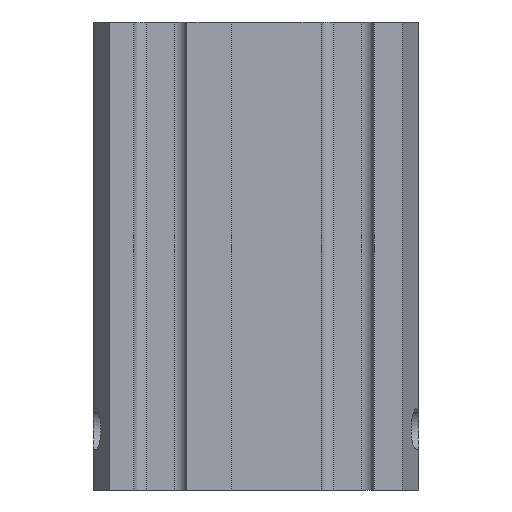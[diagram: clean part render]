
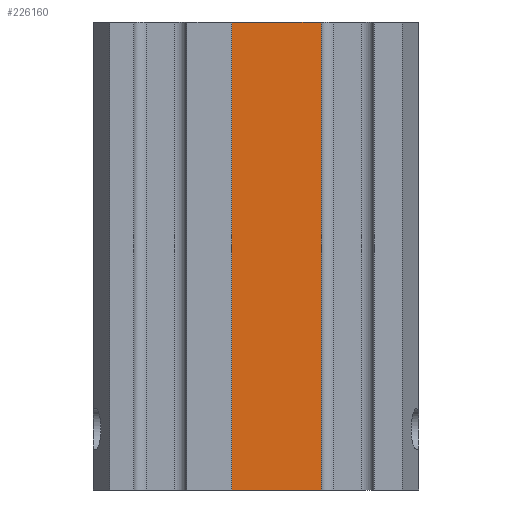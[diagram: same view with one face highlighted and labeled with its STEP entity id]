
A CAD part, left-side view. The second image highlights one B-rep face of the part: STEP entity #226160.
In plain terms, the highlighted planar face has unit normal (-1, 0, 0).
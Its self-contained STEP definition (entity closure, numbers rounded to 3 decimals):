
#222155 = PLANE('',#222156);
#222156 = AXIS2_PLACEMENT_3D('',#222157,#222158,#222159);
#222157 = CARTESIAN_POINT('',(-45.,16.,-6.73));
#222158 = DIRECTION('',(0.,-1.,0.));
#222159 = DIRECTION('',(1.,0.,0.));
#222167 = PLANE('',#222168);
#222168 = AXIS2_PLACEMENT_3D('',#222169,#222170,#222171);
#222169 = CARTESIAN_POINT('',(-45.,16.,-25.));
#222170 = DIRECTION('',(-0.,0.,1.));
#222171 = DIRECTION('',(0.95,-0.312,0.));
#222314 = VERTEX_POINT('',#222315);
#222315 = CARTESIAN_POINT('',(-45.,16.,90.));
#222329 = PLANE('',#222330);
#222330 = AXIS2_PLACEMENT_3D('',#222331,#222332,#222333);
#222331 = CARTESIAN_POINT('',(-45.,16.,90.));
#222332 = DIRECTION('',(-0.,0.,1.));
#222333 = DIRECTION('',(0.95,-0.312,0.));
#222341 = EDGE_CURVE('',#222342,#222314,#222344,.T.);
#222342 = VERTEX_POINT('',#222343);
#222343 = CARTESIAN_POINT('',(-45.,16.,-25.));
#222344 = SURFACE_CURVE('',#222345,(#222349,#222356),.PCURVE_S1.);
#222345 = LINE('',#222346,#222347);
#222346 = CARTESIAN_POINT('',(-45.,16.,-25.));
#222347 = VECTOR('',#222348,1.);
#222348 = DIRECTION('',(0.,0.,1.));
#222349 = PCURVE('',#222155,#222350);
#222350 = DEFINITIONAL_REPRESENTATION('',(#222351),#222355);
#222351 = LINE('',#222352,#222353);
#222352 = CARTESIAN_POINT('',(0.,-18.27));
#222353 = VECTOR('',#222354,1.);
#222354 = DIRECTION('',(0.,1.));
#222355 = ( GEOMETRIC_REPRESENTATION_CONTEXT(2) 
PARAMETRIC_REPRESENTATION_CONTEXT() REPRESENTATION_CONTEXT('2D SPACE',''
  ) );
#222356 = PCURVE('',#222357,#222362);
#222357 = PLANE('',#222358);
#222358 = AXIS2_PLACEMENT_3D('',#222359,#222360,#222361);
#222359 = CARTESIAN_POINT('',(-45.,-30.,-6.73));
#222360 = DIRECTION('',(1.,0.,0.));
#222361 = DIRECTION('',(-0.,1.,0.));
#222362 = DEFINITIONAL_REPRESENTATION('',(#222363),#222367);
#222363 = LINE('',#222364,#222365);
#222364 = CARTESIAN_POINT('',(46.,-18.27));
#222365 = VECTOR('',#222366,1.);
#222366 = DIRECTION('',(0.,1.));
#222367 = ( GEOMETRIC_REPRESENTATION_CONTEXT(2) 
PARAMETRIC_REPRESENTATION_CONTEXT() REPRESENTATION_CONTEXT('2D SPACE',''
  ) );
#223877 = EDGE_CURVE('',#223878,#222342,#223880,.T.);
#223878 = VERTEX_POINT('',#223879);
#223879 = CARTESIAN_POINT('',(-45.,-6.,-25.));
#223880 = SURFACE_CURVE('',#223881,(#223885,#223892),.PCURVE_S1.);
#223881 = LINE('',#223882,#223883);
#223882 = CARTESIAN_POINT('',(-45.,-30.,-25.));
#223883 = VECTOR('',#223884,1.);
#223884 = DIRECTION('',(0.,1.,0.));
#223885 = PCURVE('',#222167,#223886);
#223886 = DEFINITIONAL_REPRESENTATION('',(#223887),#223891);
#223887 = LINE('',#223888,#223889);
#223888 = CARTESIAN_POINT('',(14.359,-43.701));
#223889 = VECTOR('',#223890,1.);
#223890 = DIRECTION('',(-0.312,0.95));
#223891 = ( GEOMETRIC_REPRESENTATION_CONTEXT(2) 
PARAMETRIC_REPRESENTATION_CONTEXT() REPRESENTATION_CONTEXT('2D SPACE',''
  ) );
#223892 = PCURVE('',#222357,#223893);
#223893 = DEFINITIONAL_REPRESENTATION('',(#223894),#223898);
#223894 = LINE('',#223895,#223896);
#223895 = CARTESIAN_POINT('',(0.,-18.27));
#223896 = VECTOR('',#223897,1.);
#223897 = DIRECTION('',(1.,0.));
#223898 = ( GEOMETRIC_REPRESENTATION_CONTEXT(2) 
PARAMETRIC_REPRESENTATION_CONTEXT() REPRESENTATION_CONTEXT('2D SPACE',''
  ) );
#223921 = CYLINDRICAL_SURFACE('',#223922,3.);
#223922 = AXIS2_PLACEMENT_3D('',#223923,#223924,#223925);
#223923 = CARTESIAN_POINT('',(-45.,-9.,-26.));
#223924 = DIRECTION('',(-0.,-0.,-1.));
#223925 = DIRECTION('',(1.,0.,0.));
#226160 = ADVANCED_FACE('',(#226161),#222357,.F.);
#226161 = FACE_BOUND('',#226162,.F.);
#226162 = EDGE_LOOP('',(#226163,#226186,#226187,#226188));
#226163 = ORIENTED_EDGE('',*,*,#226164,.F.);
#226164 = EDGE_CURVE('',#223878,#226165,#226167,.T.);
#226165 = VERTEX_POINT('',#226166);
#226166 = CARTESIAN_POINT('',(-45.,-6.,90.));
#226167 = SURFACE_CURVE('',#226168,(#226172,#226179),.PCURVE_S1.);
#226168 = LINE('',#226169,#226170);
#226169 = CARTESIAN_POINT('',(-45.,-6.,-26.));
#226170 = VECTOR('',#226171,1.);
#226171 = DIRECTION('',(0.,0.,1.));
#226172 = PCURVE('',#222357,#226173);
#226173 = DEFINITIONAL_REPRESENTATION('',(#226174),#226178);
#226174 = LINE('',#226175,#226176);
#226175 = CARTESIAN_POINT('',(24.,-19.27));
#226176 = VECTOR('',#226177,1.);
#226177 = DIRECTION('',(0.,1.));
#226178 = ( GEOMETRIC_REPRESENTATION_CONTEXT(2) 
PARAMETRIC_REPRESENTATION_CONTEXT() REPRESENTATION_CONTEXT('2D SPACE',''
  ) );
#226179 = PCURVE('',#223921,#226180);
#226180 = DEFINITIONAL_REPRESENTATION('',(#226181),#226185);
#226181 = LINE('',#226182,#226183);
#226182 = CARTESIAN_POINT('',(-1.571,0.));
#226183 = VECTOR('',#226184,1.);
#226184 = DIRECTION('',(-0.,-1.));
#226185 = ( GEOMETRIC_REPRESENTATION_CONTEXT(2) 
PARAMETRIC_REPRESENTATION_CONTEXT() REPRESENTATION_CONTEXT('2D SPACE',''
  ) );
#226186 = ORIENTED_EDGE('',*,*,#223877,.T.);
#226187 = ORIENTED_EDGE('',*,*,#222341,.T.);
#226188 = ORIENTED_EDGE('',*,*,#226189,.F.);
#226189 = EDGE_CURVE('',#226165,#222314,#226190,.T.);
#226190 = SURFACE_CURVE('',#226191,(#226195,#226202),.PCURVE_S1.);
#226191 = LINE('',#226192,#226193);
#226192 = CARTESIAN_POINT('',(-45.,-30.,90.));
#226193 = VECTOR('',#226194,1.);
#226194 = DIRECTION('',(0.,1.,0.));
#226195 = PCURVE('',#222357,#226196);
#226196 = DEFINITIONAL_REPRESENTATION('',(#226197),#226201);
#226197 = LINE('',#226198,#226199);
#226198 = CARTESIAN_POINT('',(0.,96.73));
#226199 = VECTOR('',#226200,1.);
#226200 = DIRECTION('',(1.,0.));
#226201 = ( GEOMETRIC_REPRESENTATION_CONTEXT(2) 
PARAMETRIC_REPRESENTATION_CONTEXT() REPRESENTATION_CONTEXT('2D SPACE',''
  ) );
#226202 = PCURVE('',#222329,#226203);
#226203 = DEFINITIONAL_REPRESENTATION('',(#226204),#226208);
#226204 = LINE('',#226205,#226206);
#226205 = CARTESIAN_POINT('',(14.359,-43.701));
#226206 = VECTOR('',#226207,1.);
#226207 = DIRECTION('',(-0.312,0.95));
#226208 = ( GEOMETRIC_REPRESENTATION_CONTEXT(2) 
PARAMETRIC_REPRESENTATION_CONTEXT() REPRESENTATION_CONTEXT('2D SPACE',''
  ) );
